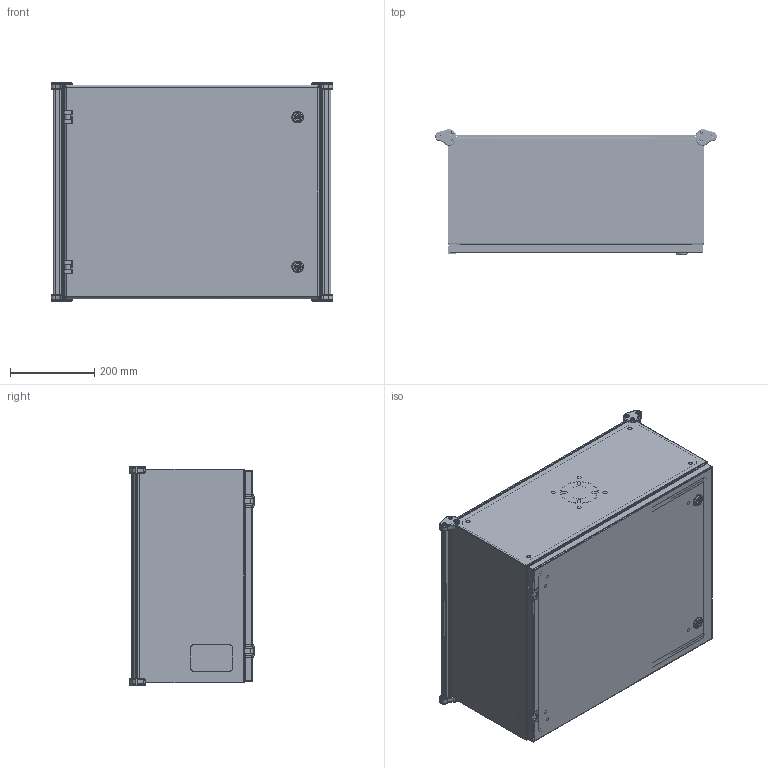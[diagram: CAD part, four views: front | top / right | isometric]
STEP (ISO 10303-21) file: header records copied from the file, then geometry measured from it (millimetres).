
FILE_DESCRIPTION(/* description */ ('Unknown'),/* implementation_level */ '2;1');
FILE_NAME(/* name */ 'ACE202410LG',/* time_stamp */ '2023-10-19T11:42:39-04:00',/* author */ ('Unknown'),/* organization */ ('Unknown'),/* preprocessor_version */ 'ST-DEVELOPER v18.104',/* originating_system */ 'Solid Edge',/* authorisation */ 'Unknown');
FILE_SCHEMA (('AUTOMOTIVE_DESIGN {1 0 10303 214 3 1 1}'));
Length unit declared in the file: millimetre
Products named in the file (43): ACE202410LG; COM71501-9; STD26130; NTS17050; COM71505-8; PNT21002; NTS16535; GSK88487_oa_0; GSK88487_oa_1; GSK88487_oa_2; GSK88487_oa_3; COM71504-5; STD26260; AKT95000; HNG14569; PIN17639; WAM30017; SCC19015; CAP88489; CAP88490; COM71506-3; SCS88495; WAM87960; KIT90256; LAB30005; NTS165305; COM71503-5; STD26092; COM70219_oa_4; BUL10020; BUL88556; LOK10000; LOK10000_CAM; LOK10000_SCREW; LOK10000_NUT; KIT90780; scs18968; QLB20179
Assembly tree (110 placements, depth 3):
  ACE202410LG
    COM71501-9
    STD26130  x8
    NTS17050  x18
    COM71505-8
      COM71505-8
      PNT21002
    NTS16535  x4
    GSK88487_oa_0
    GSK88487_oa_1
    GSK88487_oa_2
    GSK88487_oa_3
    COM71504-5
      COM71504-5
      STD26260  x14
    AKT95000  x2
      HNG14569
      PIN17639
      WAM30017
      SCC19015
    CAP88489  x2
    CAP88490  x2
    COM71506-3  x2
      COM71506-3
      PNT21002
    SCS88495  x12
    WAM87960  x4
    KIT90256
      LAB30005
      NTS165305
      NTS16535
    COM71503-5
      COM71503-5
      STD26130  x2
      STD26092  x4
      COM70219_oa_4
      PNT21002
    BUL10020
    BUL88556
    LOK10000  x2
      LOK10000
      LOK10000_CAM
      LOK10000_SCREW
      LOK10000_NUT
    KIT90780
      scs18968
    PNT21002
    QLB20179
Bounding box: 667.82 x 297.64 x 518.03 mm (x, y, z)
Volume: 3989446.1 mm3; surface area: 3452623.1 mm2
Topology: 103 solids, 104 shells, 2594 faces, 6677 edges, 4310 vertices
Faces by surface type: plane 1221, cylinder 875, cone 202, bspline 182, torus 98, sphere 16
Full cylindrical faces by diameter (mm): 3.967 x18, 4.039 x4, 4.064 x4, 4.699 x1, 4.826 x28, 4.976 x5, 5.004 x2, 5.2 x12, 5.74 x2, 5.893 x4, 5.944 x18, 5.994 x6, 6.096 x4, 6.35 x17, 6.502 x14, 6.985 x2, 8.382 x4, 9.525 x4, 9.779 x1, 10.319 x4, 10.5 x12, 11.176 x4, 13.335 x2, 15.875 x4, 19.939 x4, 27.94 x2, 50.8 x1
Entity records: 40379 total; most frequent: CARTESIAN_POINT 11200, ORIENTED_EDGE 5772, DIRECTION 5422, EDGE_CURVE 2886, VERTEX_POINT 1892, AXIS2_PLACEMENT_3D 1881, LINE 1660, VECTOR 1660
